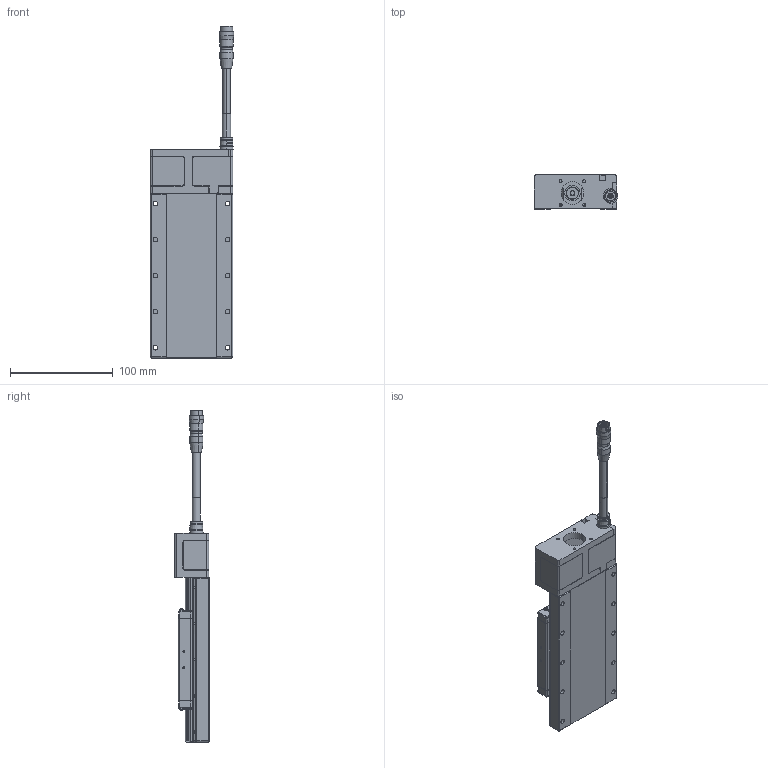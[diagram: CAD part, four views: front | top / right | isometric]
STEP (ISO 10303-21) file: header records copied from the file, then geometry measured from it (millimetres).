
FILE_DESCRIPTION (( 'STEP AP203' ), '1' );
FILE_NAME ('CXN8050-S2?N(µL°¨¹F).S', '2024-01-05T05:09:50', ( '' ), ( '' ), 'SwSTEP 2.0', 'SolidWorks 2019', '' );
FILE_SCHEMA (( 'CONFIG_CONTROL_DESIGN' ));
Length unit declared in the file: millimetre
Products named in the file (5): Group2^CXN8050-S2?N(28框無馬達)_defeature_GMT; HR10A-10J-12P_帶線示意; Group1^CXN8050-S2?N(28框無馬達)_defeature_GMT; CXN8050-S2?N(無馬達); CXN80_GMT
Assembly tree (4 placements, depth 2):
  CXN8050-S2?N(無馬達)
    Group1^CXN8050-S2?N(28框無馬達)_defeature_GMT
    Group2^CXN8050-S2?N(28框無馬達)_defeature_GMT
    CXN80_GMT
    HR10A-10J-12P_帶線示意
Bounding box: 80.99 x 33.5 x 322.52 mm (x, y, z)
Volume: 63745.5 mm3; surface area: 115116.4 mm2
Topology: 22 solids, 24 shells, 3023 faces, 7699 edges, 4660 vertices
Faces by surface type: cylinder 999, plane 984, cone 531, torus 230, bspline 145, sphere 134
Entity records: 97758 total; most frequent: CARTESIAN_POINT 23884, DIRECTION 16268, ORIENTED_EDGE 15094, EDGE_CURVE 7547, AXIS2_PLACEMENT_3D 6348, VERTEX_POINT 4652, LINE 3572, VECTOR 3572
